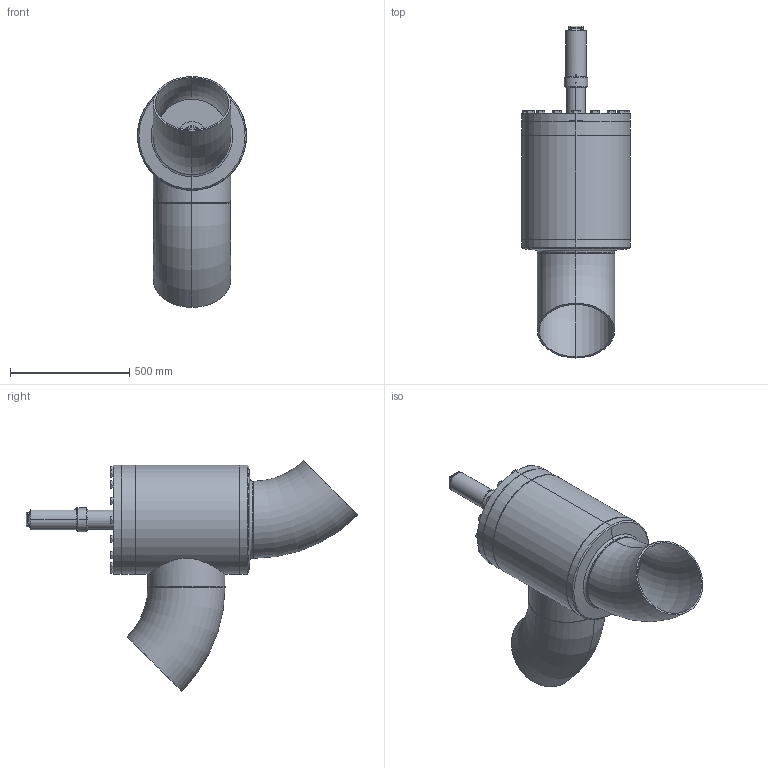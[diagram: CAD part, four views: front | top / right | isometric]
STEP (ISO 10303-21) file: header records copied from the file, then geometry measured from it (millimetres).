
FILE_DESCRIPTION (( 'STEP AP214' ), '1' );
FILE_NAME ('AVR26300C25-DN300_R1_PS25.STEP', '2009-02-06T09:25:37', ( 'Eckhard Grams' ), ( 'AWP Kälte Klima Armaturen GmbH' ), 'SwSTEP 2.0', 'SolidWorks 2002296', '' );
FILE_SCHEMA (( 'AUTOMOTIVE_DESIGN' ));
Length unit declared in the file: millimetre
Products named in the file (18): AVR26300C25-DN300_R1_PS25; AVR26300B25_Deck+Schr-DN300_Standard; Deckel,kpl26300B25-DN300_Standard; Buchse1 f Deckel26300-DN300_Standard; bead-deck263-300_Standard; Scheibe f Deckel26300-DN300_Standard; Sechskantschraube-DIN933_M20x 60; Kappe 16402-23_DN200-350 (M80x3)_Standard; Geh,kpl26300-DN300_R1_Standard; Boden26300-DN300_Standard; Kopfstück26300-DN300_Standard; Rohrstutzen-A26300-DN300_R1_Standard; Gehäuse26300-DN300_Standard; Rohrbogen 45°_Rohrbogen-DN300-45°; bead-DN300-7_Standard; bead-DN300-6_Standard; bead-DN300-5_Standard; bead-DN300-4_Standard
Assembly tree (33 placements, depth 4):
  AVR26300C25-DN300_R1_PS25
    AVR26300B25_Deck+Schr-DN300_Standard
      Sechskantschraube-DIN933_M20x 60  x16
      Deckel,kpl26300B25-DN300_Standard
        Scheibe f Deckel26300-DN300_Standard
        bead-deck263-300_Standard
        Buchse1 f Deckel26300-DN300_Standard
    Geh,kpl26300-DN300_R1_Standard
      Rohrbogen 45°_Rohrbogen-DN300-45°  x2
      bead-DN300-7_Standard
      Rohrstutzen-A26300-DN300_R1_Standard
      bead-DN300-6_Standard
      bead-DN300-5_Standard
      Gehäuse26300-DN300_Standard
      bead-DN300-4_Standard
      Kopfstück26300-DN300_Standard
      Boden26300-DN300_Standard
    Kappe 16402-23_DN200-350 (M80x3)_Standard
Bounding box: 457.49 x 1393.16 x 968.53 mm (x, y, z)
Volume: 32201977.1 mm3; surface area: 4451572.5 mm2
Topology: 30 solids, 30 shells, 648 faces, 1395 edges, 833 vertices
Faces by surface type: cone 240, plane 197, cylinder 148, bspline 39, torus 24
Entity records: 24667 total; most frequent: CARTESIAN_POINT 17768, DIRECTION 1309, ORIENTED_EDGE 1206, EDGE_CURVE 603, AXIS2_PLACEMENT_3D 573, VERTEX_POINT 375, EDGE_LOOP 340, CIRCLE 306
